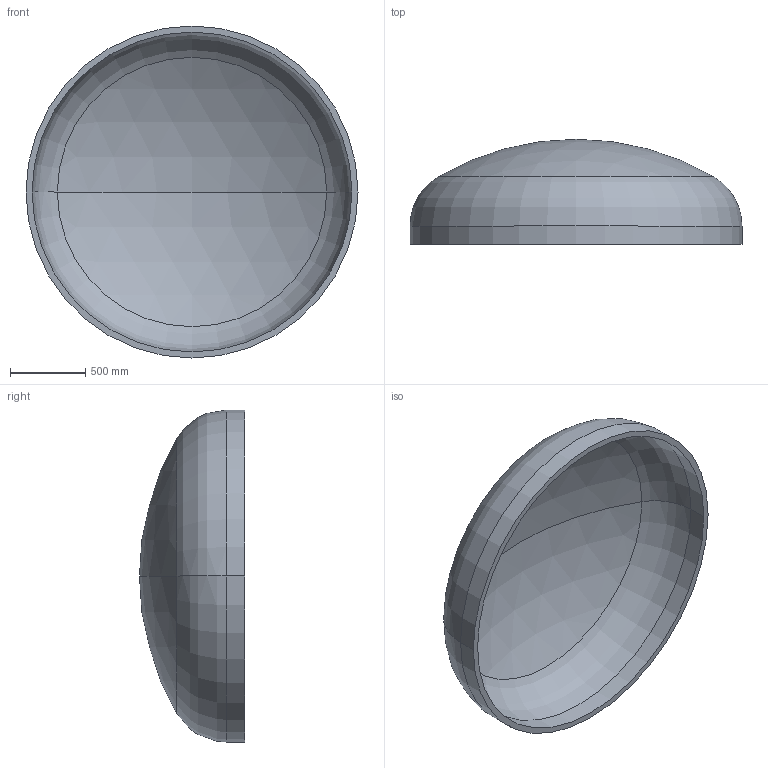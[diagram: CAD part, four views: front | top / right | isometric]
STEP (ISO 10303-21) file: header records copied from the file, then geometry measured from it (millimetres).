
FILE_DESCRIPTION (( 'STEP AP203' ), '1' );
FILE_NAME ('DIN 28013 Korbbogenform_-_Boden DIN 28013 - 2200 x 120 - I - s=40.step', '2016-07-01T14:35:04', ( '' ), ( '' ), 'SwSTEP 2.0', 'SolidWorks 2013', '' );
FILE_SCHEMA (( 'CONFIG_CONTROL_DESIGN' ));
Length unit declared in the file: millimetre
Products named in the file (1): DIN 28013 Korbbogenform_-_Boden DIN 28013 - 2200 x 120 - I - s=40
Bounding box: 2200 x 696.07 x 2200 mm (x, y, z)
Volume: 238320632.4 mm3; surface area: 12190812.4 mm2
Topology: 1 solids, 1 shells, 13 faces, 24 edges, 14 vertices
Faces by surface type: torus 4, cylinder 4, sphere 4, plane 1
Entity records: 407 total; most frequent: DIRECTION 72, CARTESIAN_POINT 52, ORIENTED_EDGE 48, AXIS2_PLACEMENT_3D 34, EDGE_CURVE 24, CIRCLE 20, VERTEX_POINT 14, EDGE_LOOP 14
